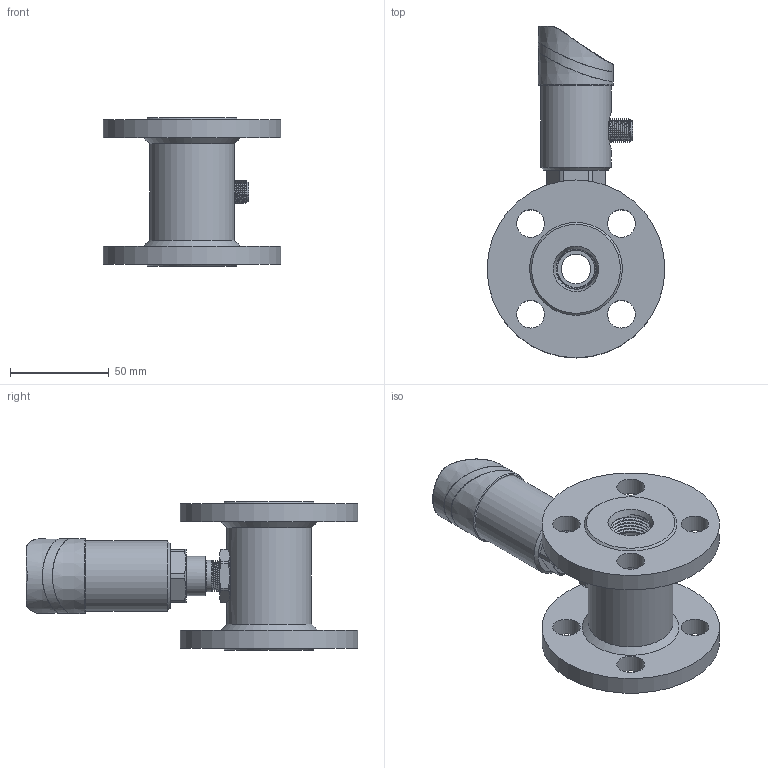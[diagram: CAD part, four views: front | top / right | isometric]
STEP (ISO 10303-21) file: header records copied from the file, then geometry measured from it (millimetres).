
FILE_DESCRIPTION( (''), '2;1');
FILE_NAME( 'QTKE_DN15_flange.step', '2024-10-14T14:53:51+08:00', (''), (''), '', '', '');
FILE_SCHEMA (('AUTOMOTIVE_DESIGN { 1 0 10303 214 3 1 1 1 }'));
Length unit declared in the file: millimetre
Products named in the file (1): QTKE DN15_flange
Bounding box: 90 x 168 x 75 mm (x, y, z)
Volume: 232521.9 mm3; surface area: 67265.4 mm2
Topology: 5 solids, 6 shells, 739 faces, 1915 edges, 1253 vertices
Faces by surface type: plane 271, cylinder 143, extrusion 141, cone 79, bspline 62, torus 32, sphere 11
Full cylindrical faces by diameter (mm): 1.689 x1, 2.7 x3, 12 x1, 14 x8, 15 x1, 15.9 x1, 16.5 x1, 17 x1, 20 x1, 21 x2, 23 x3, 26 x5, 35.5 x1, 37.001 x1, 43 x1, 90 x2
Entity records: 36481 total; most frequent: CARTESIAN_POINT 18233, ORIENTED_EDGE 3600, DIRECTION 2879, EDGE_CURVE 1800, VERTEX_POINT 1210, AXIS2_PLACEMENT_3D 964, VECTOR 951, EDGE_LOOP 894
